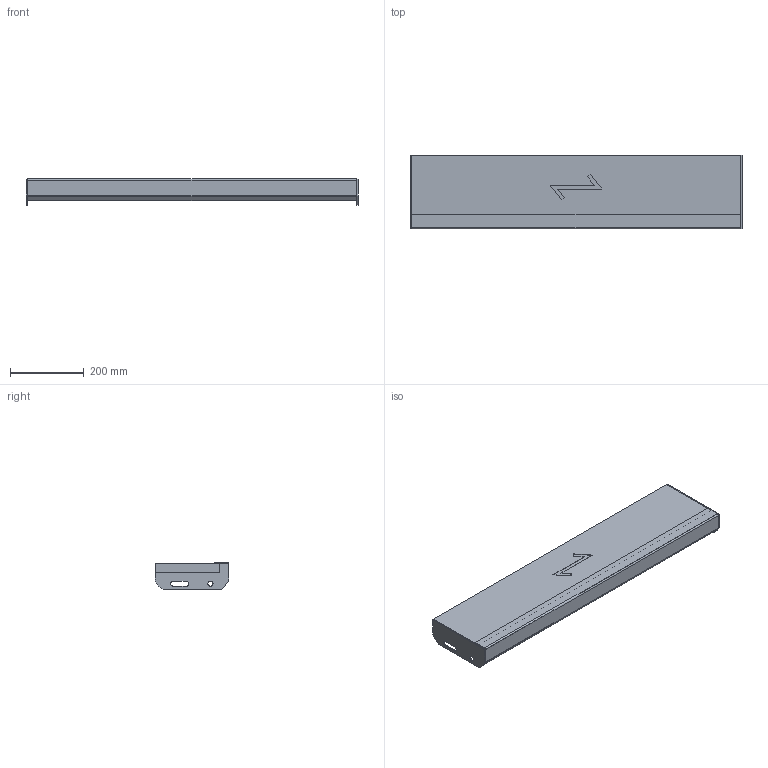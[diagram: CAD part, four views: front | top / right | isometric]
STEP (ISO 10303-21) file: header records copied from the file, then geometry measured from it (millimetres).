
FILE_DESCRIPTION (( 'STEP AP203' ), '1' );
FILE_NAME ('StegTH6-S-nya_steget-900x200.STEP', '2020-03-04T07:43:29', ( '' ), ( '' ), 'SwSTEP 2.0', 'SolidWorks 2019', '' );
FILE_SCHEMA (( 'CONFIG_CONTROL_DESIGN' ));
Length unit declared in the file: millimetre
Products named in the file (5): SW0000039506; SW0000038700; StegTH6-S-nya_steget-900x200; SW0000038784; SW0000039245
Assembly tree (5 placements, depth 3):
  StegTH6-S-nya_steget-900x200
    SW0000039506
      SW0000038784
      SW0000039245
      SW0000038700  x2
Bounding box: 900 x 200 x 72 mm (x, y, z)
Volume: 4138764.2 mm3; surface area: 599232.6 mm2
Topology: 4 solids, 4 shells, 67 faces, 158 edges, 100 vertices
Faces by surface type: plane 51, cylinder 16
Entity records: 2002 total; most frequent: DIRECTION 261, CARTESIAN_POINT 254, ORIENTED_EDGE 238, EDGE_CURVE 119, VECTOR 99, LINE 99, AXIS2_PLACEMENT_3D 81, VERTEX_POINT 74
